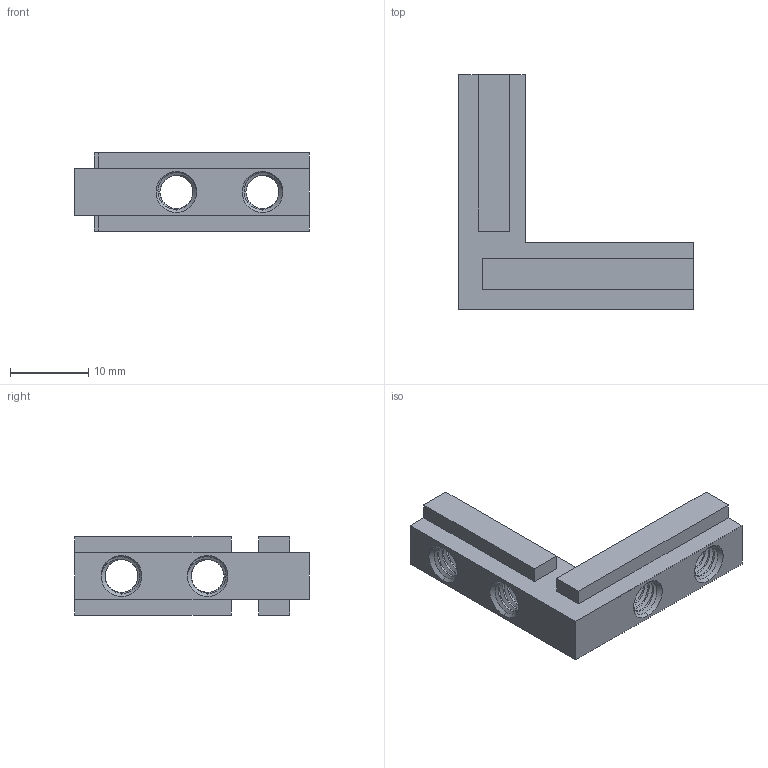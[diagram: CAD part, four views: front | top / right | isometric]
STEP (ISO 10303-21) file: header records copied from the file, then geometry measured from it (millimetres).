
FILE_DESCRIPTION (( 'STEP AP203' ), '1' );
FILE_NAME ('82-CE-IG3030-6.STEP', '2015-07-09T08:29:53', ( '' ), ( '' ), 'SwSTEP 2.0', 'SolidWorks 2013', '' );
FILE_SCHEMA (( 'CONFIG_CONTROL_DESIGN' ));
Length unit declared in the file: millimetre
Products named in the file (1): 82-CE-IG3030-6
Bounding box: 30 x 30 x 10 mm (x, y, z)
Volume: 2812.2 mm3; surface area: 2714.7 mm2
Topology: 1 solids, 1 shells, 142 faces, 402 edges, 262 vertices
Faces by surface type: cylinder 82, cone 28, plane 24, bspline 8
Entity records: 10097 total; most frequent: CARTESIAN_POINT 6879, ORIENTED_EDGE 804, DIRECTION 514, EDGE_CURVE 402, VERTEX_POINT 262, AXIS2_PLACEMENT_3D 175, LINE 164, VECTOR 164
